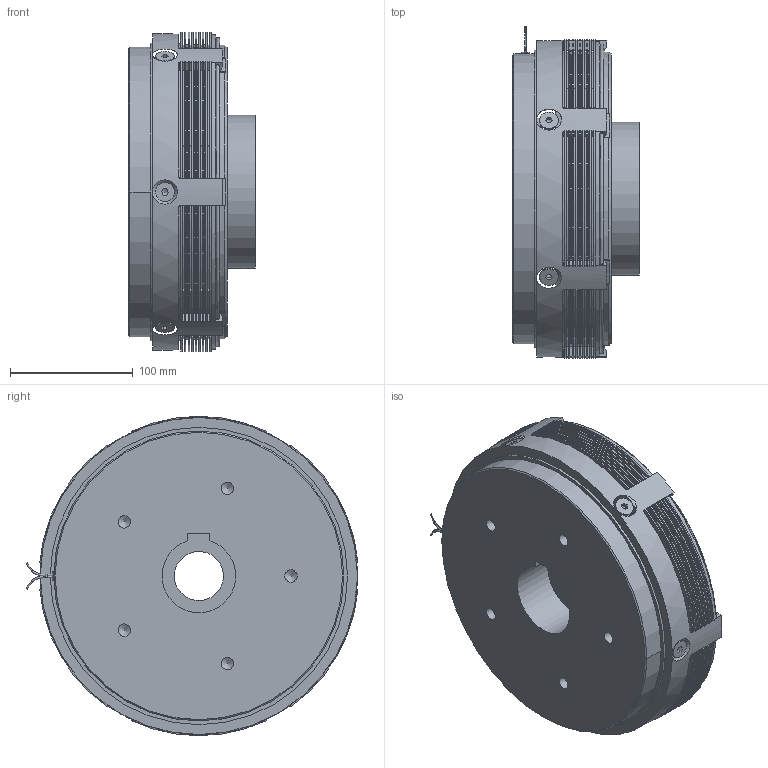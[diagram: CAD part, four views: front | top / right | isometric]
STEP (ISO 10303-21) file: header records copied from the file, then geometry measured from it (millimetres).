
FILE_DESCRIPTION(/* description */ (''),/* implementation_level */ '2;1');
FILE_NAME(/* name */ 'X:\INVENTOR\DISEGNI\05_Friz_Elettmag-Lam\05_06 EC_F\05_06_260_01 EC_F260\05_06_260_01 EC_F260@STEP.stp',/* time_stamp */ '2023-03-10T14:58:14+01:00',/* author */ ('alessio'),/* organization */ (''),/* preprocessor_version */ 'ST-DEVELOPER v18.1',/* originating_system */ 'Autodesk Inventor 2021',/* authorisation */ '');
FILE_SCHEMA (('AUTOMOTIVE_DESIGN { 1 0 10303 214 3 1 1 }'));
Products named in the file (1): 05_06_260_01 EC_F260
Bounding box: 103 x 270.24 x 260 mm (x, y, z)
Volume: 3574460.3 mm3; surface area: 1207317 mm2
Topology: 18 solids, 30 shells, 3854 faces, 11371 edges, 7546 vertices
Faces by surface type: cylinder 3133, plane 555, torus 115, cone 49, bspline 2
Full cylindrical faces by diameter (mm): 1.154 x2, 1.5 x1, 6.647 x6, 8 x6, 8.5 x6, 10.106 x5, 15.24 x6, 40 x1, 125 x1, 142 x2, 182 x1, 183 x1, 213 x1, 214 x1, 242 x1, 258 x1
Entity records: 139682 total; most frequent: CARTESIAN_POINT 26672, DIRECTION 25174, ORIENTED_EDGE 22734, EDGE_CURVE 11367, AXIS2_PLACEMENT_3D 10340, VERTEX_POINT 7558, CIRCLE 6439, LINE 4494
